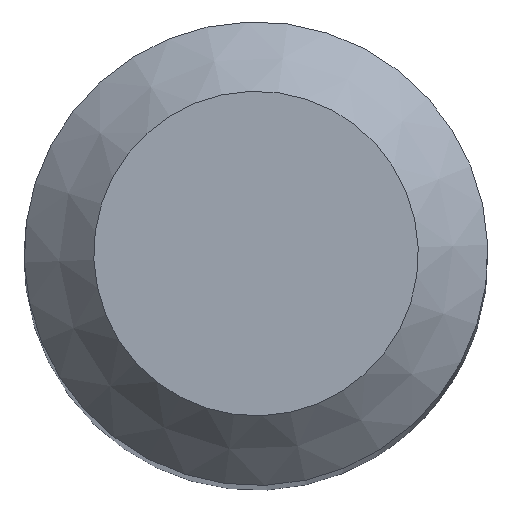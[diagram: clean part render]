
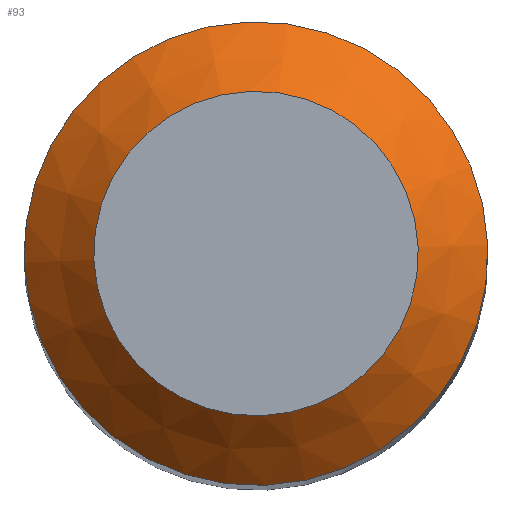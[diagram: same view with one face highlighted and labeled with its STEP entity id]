
A CAD part, top view. The second image highlights one B-rep face of the part: STEP entity #93.
In plain terms, the highlighted conical face has half-angle 45 degrees and reference radius 3 mm.
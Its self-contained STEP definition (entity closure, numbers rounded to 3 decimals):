
#67=FACE_BOUND('',#144,.T.);
#68=FACE_BOUND('',#145,.T.);
#75=CONICAL_SURFACE('',#458,3.,45.);
#93=ADVANCED_FACE('',(#67,#68),#75,.T.);
#144=EDGE_LOOP('',(#246));
#145=EDGE_LOOP('',(#247));
#161=CIRCLE('',#455,3.);
#162=CIRCLE('',#457,2.1);
#246=ORIENTED_EDGE('',*,*,#351,.F.);
#247=ORIENTED_EDGE('',*,*,#348,.T.);
#299=VERTEX_POINT('',#14949);
#300=VERTEX_POINT('',#15008);
#348=EDGE_CURVE('',#299,#299,#161,.T.);
#351=EDGE_CURVE('',#300,#300,#162,.T.);
#455=AXIS2_PLACEMENT_3D('',#14948,#518,#519);
#457=AXIS2_PLACEMENT_3D('',#15007,#522,#523);
#458=AXIS2_PLACEMENT_3D('',#15009,#524,#525);
#518=DIRECTION('',(0.,0.,1.));
#519=DIRECTION('',(0.952,-0.306,0.));
#522=DIRECTION('',(0.,0.,1.));
#523=DIRECTION('',(0.952,-0.306,0.));
#524=DIRECTION('',(0.,0.,-1.));
#525=DIRECTION('',(-0.952,0.306,0.));
#14948=CARTESIAN_POINT('',(0.,0.,-0.9));
#14949=CARTESIAN_POINT('',(2.856,-0.917,-0.9));
#15007=CARTESIAN_POINT('',(0.,0.,0.));
#15008=CARTESIAN_POINT('',(2.,-0.642,0.));
#15009=CARTESIAN_POINT('',(0.,0.,-0.9));
